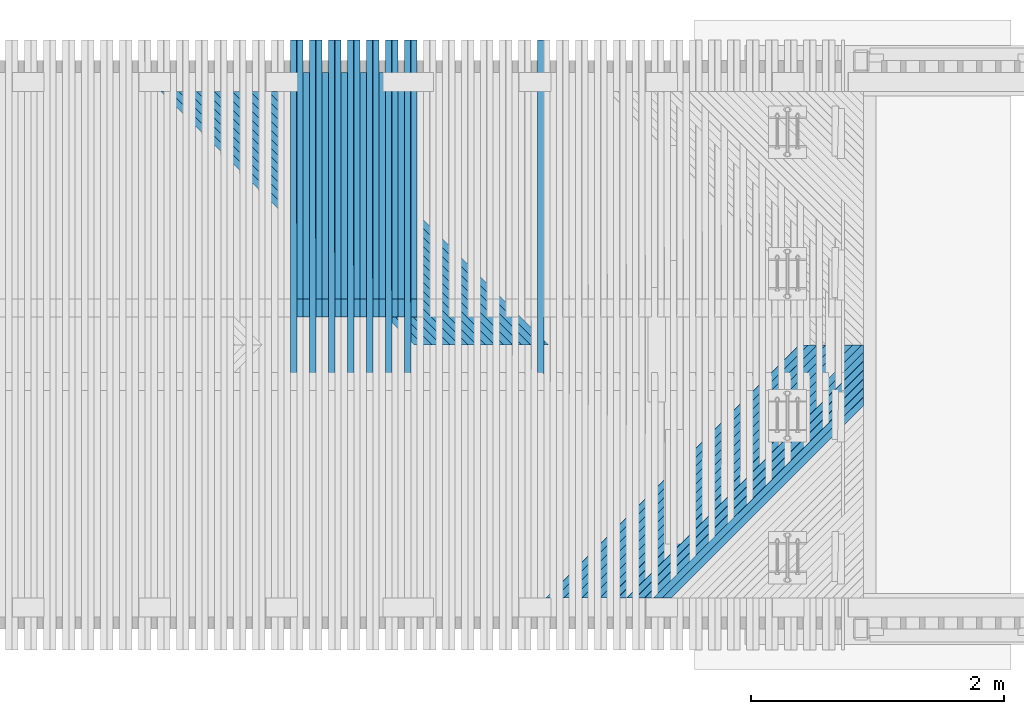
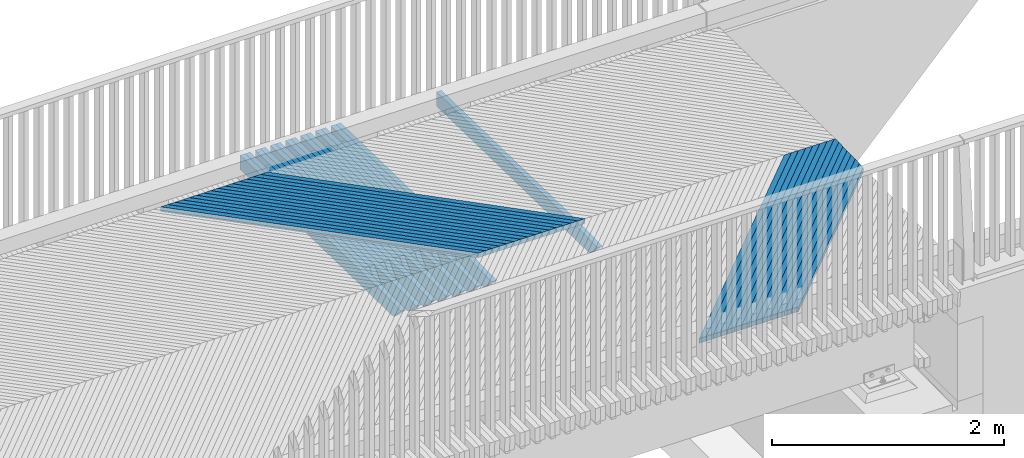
# One storey, part 39 of 47: 50 beams.
"""IFC2X3 building model written with IfcOpenShell, lengths in millimetres."""

from ifc_helpers import new_model, si_unit, frame, origin_with_axes, place, context, subcontext, project, spatial, faceted_brep, material, type_object, element, save


model = new_model("IFC2X3")

# Units and contexts
model_context = context("Model", 3, precision=1e-05, world=origin_with_axes())
body_context = subcontext(model_context, "Body", "Model", "MODEL_VIEW")
ifc_project = project(units=[si_unit("LENGTHUNIT", "METRE", prefix="MILLI"), si_unit("AREAUNIT", "SQUARE_METRE"), si_unit("VOLUMEUNIT", "CUBIC_METRE"), si_unit("MASSUNIT", "GRAM", prefix="KILO"), si_unit("TIMEUNIT", "SECOND"), si_unit("PLANEANGLEUNIT", "RADIAN"), si_unit("SOLIDANGLEUNIT", "STERADIAN"), si_unit("THERMODYNAMICTEMPERATUREUNIT", "DEGREE_CELSIUS"), si_unit("LUMINOUSINTENSITYUNIT", "LUMEN")], contexts=[model_context])

# Site, building, storey
site_placement = place(None, origin_with_axes())
site = spatial("IfcSite", under=ifc_project, at=site_placement, Name="Undefined", CompositionType="ELEMENT")
building_placement = place(site_placement, origin_with_axes())
building = spatial("IfcBuilding", under=site, at=building_placement, Name="Undefined", CompositionType="ELEMENT")
storey_placement = place(building_placement, origin_with_axes())
storey = spatial("IfcBuildingStorey", under=building, at=storey_placement, Name="Undefined", CompositionType="ELEMENT", Elevation=0.0)

# Beams
ifc_material = material(Name="TIMBER/Timber_Undefined")
beam_type_1 = type_object("IfcBeamType", Name="150*50", PredefinedType="NOTDEFINED")
beam_1_placement = place(storey_placement, frame((14050.8993195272, 64771.443807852, 3057.57767055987), z_axis=(0.00996890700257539, 0.0199960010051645, 0.999750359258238), x_axis=(0.000199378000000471, -0.999800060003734, 0.0199950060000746)))
element("IfcBeam", 1, at=beam_1_placement, inside=storey, type_object=beam_type_1, material=ifc_material, Name="BEAM", ObjectType="150*50", context=body_context, shape_type="Brep", body=[
    faceted_brep([(6.18456397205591e-09, -24.9999999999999, -75.0000000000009), (6.18456397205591e-09, 24.9999999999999, -75.0), (2633.00494983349, 25.0000000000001, -75.0000000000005), (2633.00495050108, -24.9999999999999, -75.0000000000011), (-6.1918399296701e-09, -24.9999999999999, 74.9999999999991), (-6.19911588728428e-09, 25.0, 75.0), (2408.42506497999, 24.9999999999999, 75.0), (2768.5924870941, 25.0, 60.5875375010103), (2768.59248707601, -25.0, 60.5875366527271), (2408.4250638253, -25.0, 74.9999999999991)], [[[0, 1, 2, 3]], [[0, 4, 5, 1]], [[2, 1, 5, 6, 7]], [[3, 2, 7, 8]], [[4, 0, 3, 8, 9]], [[5, 4, 9, 6]], [[8, 7, 6, 9]]]),
])
beam_2_placement = place(storey_placement, frame((13050.7800197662, 64771.4438078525, 3066.79908474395), z_axis=(0.00839151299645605, 0.0199960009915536, 0.999764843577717), x_axis=(0.000167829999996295, -0.999800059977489, 0.0199952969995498)))
element("IfcBeam", 2, at=beam_2_placement, inside=storey, type_object=beam_type_1, material=ifc_material, Name="BEAM", ObjectType="150*50", context=body_context, shape_type="Brep", body=[
    faceted_brep([(6.18456397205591e-09, -24.9999999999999, -75.0000000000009), (-6.1918399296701e-09, -24.9999999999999, 74.9999999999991), (-6.19911588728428e-09, 25.0, 75.0), (6.18456397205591e-09, 24.9999999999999, -75.0), (2047.96935975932, 25.0, 75.0), (2186.42645864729, 25.0, -75.0), (2186.42645915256, -25.0000000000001, -75.0), (2047.96936034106, -25.0000000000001, 75.0)], [[[0, 1, 2, 3]], [[3, 2, 4, 5]], [[0, 3, 5, 6]], [[1, 0, 6, 7]], [[2, 1, 7, 4]], [[7, 6, 5, 4]]]),
])
beam_3_placement = place(storey_placement, frame((13000.7423487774, 64771.443807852, 3067.21819199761), z_axis=(0.00822469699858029, 0.0199960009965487, 0.999766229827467), x_axis=(0.000164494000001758, -0.999800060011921, 0.0199953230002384)))
element("IfcBeam", 3, at=beam_3_placement, inside=storey, type_object=beam_type_1, material=ifc_material, Name="BEAM", ObjectType="150*50", context=body_context, shape_type="Brep", body=[
    faceted_brep([(6.18456397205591e-09, -24.9999999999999, -75.0000000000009), (6.18456397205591e-09, 24.9999999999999, -75.0), (2633.00494983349, 25.0000000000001, -75.0000000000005), (2633.00495050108, -24.9999999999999, -75.0000000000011), (-6.1918399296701e-09, -24.9999999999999, 74.9999999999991), (-6.19911588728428e-09, 25.0, 75.0), (2408.42506497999, 24.9999999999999, 75.0), (2768.5924870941, 25.0, 60.5875375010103), (2768.59248707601, -25.0, 60.5875366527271), (2408.4250638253, -25.0, 74.9999999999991)], [[[0, 1, 2, 3]], [[0, 4, 5, 1]], [[2, 1, 5, 6, 7]], [[3, 2, 7, 8]], [[4, 0, 3, 8, 9]], [[5, 4, 9, 6]], [[8, 7, 6, 9]]]),
])
beam_4_placement = place(storey_placement, frame((12950.7016783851, 64513.4953923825, 3072.78964680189), z_axis=(0.00822469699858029, 0.0199960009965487, 0.999766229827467), x_axis=(0.000164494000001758, -0.999800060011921, 0.0199953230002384)))
element("IfcBeam", 4, at=beam_4_placement, inside=storey, type_object=beam_type_1, material=ifc_material, Name="BEAM", ObjectType="150*50", context=body_context, shape_type="Brep", body=[
    faceted_brep([(6.18456397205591e-09, -24.9999999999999, -75.0000000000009), (-6.1918399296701e-09, -24.9999999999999, 74.9999999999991), (-6.19911588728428e-09, 25.0, 75.0), (6.18456397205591e-09, 24.9999999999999, -75.0), (1789.96936586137, 25.0, 75.0000000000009), (1928.42646506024, 25.0, -75.0), (1928.4264649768, -24.9999999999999, -75.0), (1789.96936577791, -24.9999999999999, 75.0)], [[[0, 1, 2, 3]], [[3, 2, 4, 5]], [[0, 3, 5, 6]], [[1, 0, 6, 7]], [[2, 1, 7, 4]], [[7, 6, 5, 4]]]),
])
beam_5_placement = place(storey_placement, frame((12900.7563811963, 64771.4438078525, 3068.03921047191), z_axis=(0.00814233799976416, 0.0199960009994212, 0.999766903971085), x_axis=(0.000162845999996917, -0.999800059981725, 0.0199953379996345)))
element("IfcBeam", 5, at=beam_5_placement, inside=storey, type_object=beam_type_1, material=ifc_material, Name="BEAM", ObjectType="150*50", context=body_context, shape_type="Brep", body=[
    faceted_brep([(6.18456397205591e-09, -24.9999999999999, -75.0000000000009), (-6.1918399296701e-09, -24.9999999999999, 74.9999999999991), (-6.19911588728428e-09, 25.0, 75.0), (6.18456397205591e-09, 24.9999999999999, -75.0), (2047.96935975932, 25.0, 75.0), (2186.42645864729, 25.0, -75.0), (2186.42645915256, -25.0000000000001, -75.0), (2047.96936034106, -25.0000000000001, 75.0)], [[[0, 1, 2, 3]], [[3, 2, 4, 5]], [[0, 3, 5, 6]], [[1, 0, 6, 7]], [[2, 1, 7, 4]], [[7, 6, 5, 4]]]),
])
beam_6_placement = place(storey_placement, frame((12850.7186073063, 64771.443807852, 3068.44584667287), z_axis=(0.00797552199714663, 0.019996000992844, 0.999768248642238), x_axis=(0.000159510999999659, -0.999800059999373, 0.0199953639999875)))
element("IfcBeam", 6, at=beam_6_placement, inside=storey, type_object=beam_type_1, material=ifc_material, Name="BEAM", ObjectType="150*50", context=body_context, shape_type="Brep", body=[
    faceted_brep([(6.18456397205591e-09, -24.9999999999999, -75.0000000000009), (6.18456397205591e-09, 24.9999999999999, -75.0), (2633.00494983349, 25.0000000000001, -75.0000000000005), (2633.00495050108, -24.9999999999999, -75.0000000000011), (-6.1918399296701e-09, -24.9999999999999, 74.9999999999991), (-6.19911588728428e-09, 25.0, 75.0), (2408.42501428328, 25.0000000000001, 74.9999999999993), (2768.5924870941, 25.0, 60.5875375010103), (2768.59248707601, -25.0, 60.5875366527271), (2408.4250638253, -25.0, 74.9999999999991)], [[[0, 1, 2, 3]], [[0, 4, 5, 1]], [[2, 1, 5, 6, 7]], [[3, 2, 7, 8]], [[4, 0, 3, 8, 9]], [[5, 4, 9, 6]], [[8, 7, 6, 9]]]),
])
beam_7_placement = place(storey_placement, frame((12800.6765498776, 64513.4953923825, 3074.00482951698), z_axis=(0.00797552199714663, 0.019996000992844, 0.999768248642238), x_axis=(0.000159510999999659, -0.999800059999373, 0.0199953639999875)))
element("IfcBeam", 7, at=beam_7_placement, inside=storey, type_object=beam_type_1, material=ifc_material, Name="BEAM", ObjectType="150*50", context=body_context, shape_type="Brep", body=[
    faceted_brep([(6.18456397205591e-09, -24.9999999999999, -75.0000000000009), (-6.1918399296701e-09, -24.9999999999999, 74.9999999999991), (-6.19911588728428e-09, 25.0, 75.0), (6.18456397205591e-09, 24.9999999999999, -75.0), (1789.96936586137, 25.0, 75.0000000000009), (1928.42646506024, 25.0, -75.0), (1928.4264649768, -24.9999999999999, -75.0), (1789.96936577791, -24.9999999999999, 75.0)], [[[0, 1, 2, 3]], [[3, 2, 4, 5]], [[0, 3, 5, 6]], [[1, 0, 6, 7]], [[2, 1, 7, 4]], [[7, 6, 5, 4]]]),
])
beam_8_placement = place(storey_placement, frame((12750.7324382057, 64771.4438078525, 3069.24194531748), z_axis=(0.00789316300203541, 0.0199960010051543, 0.999768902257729), x_axis=(0.000157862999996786, -0.999800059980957, 0.0199953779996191)))
element("IfcBeam", 8, at=beam_8_placement, inside=storey, type_object=beam_type_1, material=ifc_material, Name="BEAM", ObjectType="150*50", context=body_context, shape_type="Brep", body=[
    faceted_brep([(6.18456397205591e-09, -24.9999999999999, -75.0000000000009), (-6.1918399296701e-09, -24.9999999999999, 74.9999999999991), (-6.19911588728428e-09, 25.0, 75.0), (6.18456397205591e-09, 24.9999999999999, -75.0), (2047.96935975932, 25.0, 75.0), (2186.42645864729, 25.0, -75.0), (2186.42645915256, -25.0000000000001, -75.0), (2047.96936034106, -25.0000000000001, 75.0)], [[[0, 1, 2, 3]], [[3, 2, 4, 5]], [[0, 3, 5, 6]], [[1, 0, 6, 7]], [[2, 1, 7, 4]], [[7, 6, 5, 4]]]),
])
beam_9_placement = place(storey_placement, frame((12700.6945645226, 64771.443807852, 3069.6361104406), z_axis=(0.00772634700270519, 0.0199960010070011, 0.99977020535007), x_axis=(0.000154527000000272, -0.999800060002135, 0.0199954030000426)))
element("IfcBeam", 9, at=beam_9_placement, inside=storey, type_object=beam_type_1, material=ifc_material, Name="BEAM", ObjectType="150*50", context=body_context, shape_type="Brep", body=[
    faceted_brep([(6.18456397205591e-09, -24.9999999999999, -75.0000000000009), (6.18456397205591e-09, 24.9999999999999, -75.0), (2633.00494983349, 25.0000000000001, -75.0000000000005), (2633.00495050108, -24.9999999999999, -75.0000000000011), (-6.1918399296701e-09, -24.9999999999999, 74.9999999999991), (-6.19911588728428e-09, 25.0, 75.0), (2408.42501428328, 25.0000000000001, 74.9999999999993), (2768.5924870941, 25.0, 60.5875375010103), (2768.59248707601, -25.0, 60.5875366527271), (2408.4250638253, -25.0, 74.9999999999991)], [[[0, 1, 2, 3]], [[0, 4, 5, 1]], [[2, 1, 5, 6, 7]], [[3, 2, 7, 8]], [[4, 0, 3, 8, 9]], [[5, 4, 9, 6]], [[8, 7, 6, 9]]]),
])
beam_10_placement = place(storey_placement, frame((12650.6511231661, 64513.4953923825, 3075.18262097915), z_axis=(0.00772634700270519, 0.0199960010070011, 0.99977020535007), x_axis=(0.000154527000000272, -0.999800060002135, 0.0199954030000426)))
element("IfcBeam", 10, at=beam_10_placement, inside=storey, type_object=beam_type_1, material=ifc_material, Name="BEAM", ObjectType="150*50", context=body_context, shape_type="Brep", body=[
    faceted_brep([(6.18456397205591e-09, -24.9999999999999, -75.0000000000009), (-6.1918399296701e-09, -24.9999999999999, 74.9999999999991), (-6.19911588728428e-09, 25.0, 75.0), (6.18456397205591e-09, 24.9999999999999, -75.0), (1789.96936586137, 25.0, 75.0000000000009), (1928.42646506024, 25.0, -75.0), (1928.4264649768, -24.9999999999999, -75.0), (1789.96936577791, -24.9999999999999, 75.0)], [[[0, 1, 2, 3]], [[3, 2, 4, 5]], [[0, 3, 5, 6]], [[1, 0, 6, 7]], [[2, 1, 7, 4]], [[7, 6, 5, 4]]]),
])
beam_11_placement = place(storey_placement, frame((12600.7082001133, 64771.4438078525, 3070.40728920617), z_axis=(0.00764398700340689, 0.019996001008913, 0.999770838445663), x_axis=(0.0001528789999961, -0.999800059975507, 0.0199954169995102)))
element("IfcBeam", 11, at=beam_11_placement, inside=storey, type_object=beam_type_1, material=ifc_material, Name="BEAM", ObjectType="150*50", context=body_context, shape_type="Brep", body=[
    faceted_brep([(6.18456397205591e-09, -24.9999999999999, -75.0000000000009), (-6.1918399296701e-09, -24.9999999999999, 74.9999999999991), (-6.19911588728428e-09, 25.0, 75.0), (6.18456397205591e-09, 24.9999999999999, -75.0), (2047.96935975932, 25.0, 75.0), (2186.42645864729, 25.0, -75.0), (2186.42645915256, -25.0000000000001, -75.0), (2047.96936034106, -25.0000000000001, 75.0)], [[[0, 1, 2, 3]], [[3, 2, 4, 5]], [[0, 3, 5, 6]], [[1, 0, 6, 7]], [[2, 1, 7, 4]], [[7, 6, 5, 4]]]),
])
beam_12_placement = place(storey_placement, frame((12550.6702297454, 64771.443807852, 3070.78898322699), z_axis=(0.00747717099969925, 0.019996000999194, 0.999772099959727), x_axis=(0.000149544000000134, -0.999800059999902, 0.019995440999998)))
element("IfcBeam", 12, at=beam_12_placement, inside=storey, type_object=beam_type_1, material=ifc_material, Name="BEAM", ObjectType="150*50", context=body_context, shape_type="Brep", body=[
    faceted_brep([(6.18456397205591e-09, -24.9999999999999, -75.0000000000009), (6.18456397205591e-09, 24.9999999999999, -75.0), (2633.00494983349, 25.0000000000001, -75.0000000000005), (2633.00495050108, -24.9999999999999, -75.0000000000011), (-6.1918399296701e-09, -24.9999999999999, 74.9999999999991), (-6.19911588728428e-09, 25.0, 75.0), (2408.42501428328, 25.0000000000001, 74.9999999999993), (2768.5924870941, 25.0, 60.5875375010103), (2768.59248707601, -25.0, 60.5875366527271), (2408.4250638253, -25.0, 74.9999999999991)], [[[0, 1, 2, 3]], [[0, 4, 5, 1]], [[2, 1, 5, 6, 7]], [[3, 2, 7, 8]], [[4, 0, 3, 8, 9]], [[5, 4, 9, 6]], [[8, 7, 6, 9]]]),
])
beam_13_placement = place(storey_placement, frame((12500.6254075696, 64513.4953923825, 3076.3230211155), z_axis=(0.00747717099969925, 0.019996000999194, 0.999772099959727), x_axis=(0.000149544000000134, -0.999800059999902, 0.019995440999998)))
element("IfcBeam", 13, at=beam_13_placement, inside=storey, type_object=beam_type_1, material=ifc_material, Name="BEAM", ObjectType="150*50", context=body_context, shape_type="Brep", body=[
    faceted_brep([(6.18456397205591e-09, -24.9999999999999, -75.0000000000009), (-6.1918399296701e-09, -24.9999999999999, 74.9999999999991), (-6.19911588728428e-09, 25.0, 75.0), (6.18456397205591e-09, 24.9999999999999, -75.0), (1789.96936586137, 25.0, 75.0000000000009), (1928.42646506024, 25.0, -75.0), (1928.4264649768, -24.9999999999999, -75.0), (1789.96936577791, -24.9999999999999, 75.0)], [[[0, 1, 2, 3]], [[3, 2, 4, 5]], [[0, 3, 5, 6]], [[1, 0, 6, 7]], [[2, 1, 7, 4]], [[7, 6, 5, 4]]]),
])
beam_14_placement = place(storey_placement, frame((12450.6836762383, 64771.4438078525, 3071.53524206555), z_axis=(0.00739481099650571, 0.0199960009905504, 0.999772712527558), x_axis=(0.000147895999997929, -0.999800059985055, 0.0199954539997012)))
element("IfcBeam", 14, at=beam_14_placement, inside=storey, type_object=beam_type_1, material=ifc_material, Name="BEAM", ObjectType="150*50", context=body_context, shape_type="Brep", body=[
    faceted_brep([(6.18456397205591e-09, -24.9999999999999, -75.0000000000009), (-6.1918399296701e-09, -24.9999999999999, 74.9999999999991), (-6.19911588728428e-09, 25.0, 75.0), (6.18456397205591e-09, 24.9999999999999, -75.0), (2047.96935975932, 25.0, 75.0), (2186.42645864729, 25.0, -75.0), (2186.42645915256, -25.0000000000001, -75.0), (2047.96936034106, -25.0000000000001, 75.0)], [[[0, 1, 2, 3]], [[3, 2, 4, 5]], [[0, 3, 5, 6]], [[1, 0, 6, 7]], [[2, 1, 7, 4]], [[7, 6, 5, 4]]]),
])
beam_15_placement = place(storey_placement, frame((12400.6456122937, 64771.443807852, 3071.90446496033), z_axis=(0.00722799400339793, 0.0199960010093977, 0.999773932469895), x_axis=(0.000144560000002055, -0.99980006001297, 0.0199954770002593)))
element("IfcBeam", 15, at=beam_15_placement, inside=storey, type_object=beam_type_1, material=ifc_material, Name="BEAM", ObjectType="150*50", context=body_context, shape_type="Brep", body=[
    faceted_brep([(6.18456397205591e-09, -24.9999999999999, -75.0000000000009), (6.18456397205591e-09, 24.9999999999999, -75.0), (2633.00494983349, 25.0000000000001, -75.0000000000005), (2633.00495050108, -24.9999999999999, -75.0000000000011), (-6.1918399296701e-09, -24.9999999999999, 74.9999999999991), (-6.19911588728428e-09, 25.0, 75.0), (2408.42506497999, 24.9999999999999, 75.0), (2768.5924870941, 25.0, 60.5875375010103), (2768.59248707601, -25.0, 60.5875366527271), (2408.4250638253, -25.0, 74.9999999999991)], [[[0, 1, 2, 3]], [[0, 4, 5, 1]], [[2, 1, 5, 6, 7]], [[3, 2, 7, 8]], [[4, 0, 3, 8, 9]], [[5, 4, 9, 6]], [[8, 7, 6, 9]]]),
])
beam_16_placement = place(storey_placement, frame((12350.5994124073, 64513.4953923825, 3077.42602985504), z_axis=(0.00722799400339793, 0.0199960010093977, 0.999773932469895), x_axis=(0.000144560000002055, -0.99980006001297, 0.0199954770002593)))
element("IfcBeam", 16, at=beam_16_placement, inside=storey, type_object=beam_type_1, material=ifc_material, Name="BEAM", ObjectType="150*50", context=body_context, shape_type="Brep", body=[
    faceted_brep([(6.18456397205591e-09, -24.9999999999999, -75.0000000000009), (-6.1918399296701e-09, -24.9999999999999, 74.9999999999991), (-6.19911588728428e-09, 25.0, 75.0), (6.18456397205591e-09, 24.9999999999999, -75.0), (1789.96936586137, 25.0, 75.0000000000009), (1928.42646506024, 25.0, -75.0), (1928.4264649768, -24.9999999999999, -75.0), (1789.96936577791, -24.9999999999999, 75.0)], [[[0, 1, 2, 3]], [[3, 2, 4, 5]], [[0, 3, 5, 6]], [[1, 0, 6, 7]], [[2, 1, 7, 4]], [[7, 6, 5, 4]]]),
])
beam_17_placement = place(storey_placement, frame((12300.6588758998, 64771.4438078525, 3072.62580382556), z_axis=(0.00714563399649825, 0.0199960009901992, 0.999774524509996), x_axis=(0.000142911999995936, -0.999800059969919, 0.0199954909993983)))
element("IfcBeam", 17, at=beam_17_placement, inside=storey, type_object=beam_type_1, material=ifc_material, Name="BEAM", ObjectType="150*50", context=body_context, shape_type="Brep", body=[
    faceted_brep([(6.18456397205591e-09, -24.9999999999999, -75.0000000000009), (-6.1918399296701e-09, -24.9999999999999, 74.9999999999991), (-6.19911588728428e-09, 25.0, 75.0), (6.18456397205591e-09, 24.9999999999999, -75.0), (2047.96935975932, 25.0, 75.0), (2186.42645864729, 25.0, -75.0), (2186.42645915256, -25.0000000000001, -75.0), (2047.96936034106, -25.0000000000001, 75.0)], [[[0, 1, 2, 3]], [[3, 2, 4, 5]], [[0, 3, 5, 6]], [[1, 0, 6, 7]], [[2, 1, 7, 4]], [[7, 6, 5, 4]]]),
])
beam_18_placement = place(storey_placement, frame((12250.6207214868, 64771.443807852, 3072.98255557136), z_axis=(0.00697881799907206, 0.0199960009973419, 0.999775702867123), x_axis=(0.000139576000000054, -0.999800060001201, 0.0199955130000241)))
element("IfcBeam", 18, at=beam_18_placement, inside=storey, type_object=beam_type_1, material=ifc_material, Name="BEAM", ObjectType="150*50", context=body_context, shape_type="Brep", body=[
    faceted_brep([(6.18456397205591e-09, -24.9999999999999, -75.0000000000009), (6.18456397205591e-09, 24.9999999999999, -75.0), (2633.00494983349, 25.0000000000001, -75.0000000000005), (2633.00495050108, -24.9999999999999, -75.0000000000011), (-6.1918399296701e-09, -24.9999999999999, 74.9999999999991), (-6.19911588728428e-09, 25.0, 75.0), (2408.42501428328, 25.0000000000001, 74.9999999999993), (2768.5924870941, 25.0, 60.5875375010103), (2768.59248707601, -25.0, 60.5875366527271), (2408.4250638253, -25.0, 74.9999999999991)], [[[0, 1, 2, 3]], [[0, 4, 5, 1]], [[2, 1, 5, 6, 7]], [[3, 2, 7, 8]], [[4, 0, 3, 8, 9]], [[5, 4, 9, 6]], [[8, 7, 6, 9]]]),
])
beam_19_placement = place(storey_placement, frame((12200.5731469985, 64513.4953923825, 3078.49164712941), z_axis=(0.00697881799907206, 0.0199960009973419, 0.999775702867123), x_axis=(0.000139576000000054, -0.999800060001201, 0.0199955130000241)))
element("IfcBeam", 19, at=beam_19_placement, inside=storey, type_object=beam_type_1, material=ifc_material, Name="BEAM", ObjectType="150*50", context=body_context, shape_type="Brep", body=[
    faceted_brep([(6.18456397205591e-09, -24.9999999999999, -75.0000000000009), (-6.1918399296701e-09, -24.9999999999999, 74.9999999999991), (-6.19911588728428e-09, 25.0, 75.0), (6.18456397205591e-09, 24.9999999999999, -75.0), (1789.96936586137, 25.0, 75.0000000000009), (1928.42646506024, 25.0, -75.0), (1928.4264649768, -24.9999999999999, -75.0), (1789.96936577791, -24.9999999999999, 75.0)], [[[0, 1, 2, 3]], [[3, 2, 4, 5]], [[0, 3, 5, 6]], [[1, 0, 6, 7]], [[2, 1, 7, 4]], [[7, 6, 5, 4]]]),
])
beam_20_placement = place(storey_placement, frame((12150.6338084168, 64771.4438078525, 3073.67897441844), z_axis=(0.00689645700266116, 0.0199960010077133, 0.99977627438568), x_axis=(0.000137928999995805, -0.999800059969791, 0.0199955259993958)))
element("IfcBeam", 20, at=beam_20_placement, inside=storey, type_object=beam_type_1, material=ifc_material, Name="BEAM", ObjectType="150*50", context=body_context, shape_type="Brep", body=[
    faceted_brep([(6.18456397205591e-09, -24.9999999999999, -75.0000000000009), (-6.1918399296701e-09, -24.9999999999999, 74.9999999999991), (-6.19911588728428e-09, 25.0, 75.0), (6.18456397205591e-09, 24.9999999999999, -75.0), (2047.96935975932, 25.0, 75.0), (2186.42645864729, 25.0, -75.0), (2186.42645915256, -25.0000000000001, -75.0), (2047.96936034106, -25.0000000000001, 75.0)], [[[0, 1, 2, 3]], [[3, 2, 4, 5]], [[0, 3, 5, 6]], [[1, 0, 6, 7]], [[2, 1, 7, 4]], [[7, 6, 5, 4]]]),
])
beam_21_placement = place(storey_placement, frame((12100.5955666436, 64771.443807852, 3074.02325499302), z_axis=(0.00672964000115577, 0.019996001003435, 0.99977741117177), x_axis=(0.000134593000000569, -0.999800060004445, 0.0199955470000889)))
element("IfcBeam", 21, at=beam_21_placement, inside=storey, type_object=beam_type_1, material=ifc_material, Name="BEAM", ObjectType="150*50", context=body_context, shape_type="Brep", body=[
    faceted_brep([(6.18456397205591e-09, -24.9999999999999, -75.0000000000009), (6.18456397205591e-09, 24.9999999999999, -75.0), (2633.00494983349, 25.0000000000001, -75.0000000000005), (2633.00495050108, -24.9999999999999, -75.0000000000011), (-6.1918399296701e-09, -24.9999999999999, 74.9999999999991), (-6.19911588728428e-09, 25.0, 75.0), (2408.42506497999, 24.9999999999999, 75.0), (2768.5924870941, 25.0, 60.5875375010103), (2768.59248707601, -25.0, 60.5875366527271), (2408.4250638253, -25.0, 74.9999999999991)], [[[0, 1, 2, 3]], [[0, 4, 5, 1]], [[2, 1, 5, 6, 7]], [[3, 2, 7, 8]], [[4, 0, 3, 8, 9]], [[5, 4, 9, 6]], [[8, 7, 6, 9]]]),
])
beam_type_2 = type_object("IfcBeamType", Name="50*50", PredefinedType="NOTDEFINED")
beam_22_placement = place(storey_placement, frame((17046.7195569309, 62364.5001003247, 3168.15461339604), z_axis=(0.706841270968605, -0.706981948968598, -0.0234934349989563), x_axis=(-0.707248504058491, -0.706948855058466, -0.00478224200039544)))
element("IfcBeam", 22, at=beam_22_placement, inside=storey, type_object=beam_type_2, material=ifc_material, Name="BEAM", ObjectType="50*50", context=body_context, shape_type="Brep", body=[
    faceted_brep([(2802.92643296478, -25.0000000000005, 25.0000000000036), (2852.92877373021, -25.0000000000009, -24.9999999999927), (2854.34301907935, 24.9999999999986, -24.9999999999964), (2804.3406783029, 24.9999999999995, 25.0000000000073), (606.177079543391, 24.9999999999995, -25.0000000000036), (656.148289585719, 24.9999999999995, 24.9999999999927), (657.083441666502, -25.0000000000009, 24.9999999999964), (607.112231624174, -25.0000000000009, -25.0)], [[[0, 1, 2, 3]], [[3, 2, 4, 5]], [[0, 3, 5, 6]], [[1, 0, 6, 7]], [[2, 1, 7, 4]], [[6, 5, 4, 7]]]),
])
beam_23_placement = place(storey_placement, frame((16976.0032446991, 62364.5001003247, 3169.21309384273), z_axis=(0.70684402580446, -0.706981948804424, -0.0234104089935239), x_axis=(-0.707247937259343, -0.706948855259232, -0.00486531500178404)))
element("IfcBeam", 23, at=beam_23_placement, inside=storey, type_object=beam_type_2, material=ifc_material, Name="BEAM", ObjectType="50*50", context=body_context, shape_type="Brep", body=[
    faceted_brep([(2802.92643296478, -25.0000000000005, 25.0000000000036), (2852.92877373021, -25.0000000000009, -24.9999999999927), (2854.34301907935, 24.9999999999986, -24.9999999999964), (2804.3406783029, 24.9999999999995, 25.0000000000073), (506.193611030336, 24.9999999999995, -24.9999999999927), (556.165055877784, 24.9999999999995, 25.0000000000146), (557.091907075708, -24.9999999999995, 25.0000000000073), (507.120462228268, -25.0000000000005, -24.9999999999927)], [[[0, 1, 2, 3]], [[3, 2, 4, 5]], [[0, 3, 5, 6]], [[1, 0, 6, 7]], [[2, 1, 7, 4]], [[6, 5, 4, 7]]]),
])
beam_24_placement = place(storey_placement, frame((16905.2868086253, 62364.5001003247, 3170.26326789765), z_axis=(0.706846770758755, -0.70698194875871, -0.0233273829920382), x_axis=(-0.707247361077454, -0.706948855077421, -0.00494838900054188)))
element("IfcBeam", 24, at=beam_24_placement, inside=storey, type_object=beam_type_2, material=ifc_material, Name="BEAM", ObjectType="50*50", context=body_context, shape_type="Brep", body=[
    faceted_brep([(2802.92643296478, -25.0000000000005, 25.0000000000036), (2852.92877373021, -25.0000000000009, -24.9999999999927), (2854.34301907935, 24.9999999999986, -24.9999999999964), (2804.3406783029, 24.9999999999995, 25.0000000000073), (406.209812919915, 24.9999999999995, -25.0000000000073), (456.181492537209, 24.9999999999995, 25.0), (457.100042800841, -25.0000000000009, 25.0), (407.128363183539, -25.0000000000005, -25.0000000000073)], [[[0, 1, 2, 3]], [[3, 2, 4, 5]], [[0, 3, 5, 6]], [[1, 0, 6, 7]], [[2, 1, 7, 4]], [[6, 5, 4, 7]]]),
])
beam_25_placement = place(storey_placement, frame((16834.5702496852, 62364.5001003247, 3171.30513554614), z_axis=(0.706849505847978, -0.706981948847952, -0.023244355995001), x_axis=(-0.707246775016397, -0.70694885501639, -0.0050314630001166)))
element("IfcBeam", 25, at=beam_25_placement, inside=storey, type_object=beam_type_2, material=ifc_material, Name="BEAM", ObjectType="50*50", context=body_context, shape_type="Brep", body=[
    faceted_brep([(2802.92643296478, -25.0000000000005, 25.0000000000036), (2852.92877373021, -25.0000000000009, -24.9999999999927), (2854.34301907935, 24.9999999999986, -24.9999999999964), (2804.3406783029, 24.9999999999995, 25.0000000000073), (306.22568282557, 25.0000000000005, -25.0), (356.197597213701, 25.0000000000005, 25.0), (357.107846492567, -25.0, 24.9999999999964), (307.135932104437, -24.9999999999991, -25.0000000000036)], [[[0, 1, 2, 3]], [[3, 2, 4, 5]], [[0, 3, 5, 6]], [[1, 0, 6, 7]], [[2, 1, 7, 4]], [[6, 5, 4, 7]]]),
])
beam_26_placement = place(storey_placement, frame((16763.8535688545, 62364.5001003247, 3172.33869677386), z_axis=(0.706852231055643, -0.706981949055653, -0.0231613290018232), x_axis=(-0.707246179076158, -0.706948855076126, -0.0051145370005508)))
element("IfcBeam", 26, at=beam_26_placement, inside=storey, type_object=beam_type_2, material=ifc_material, Name="BEAM", ObjectType="50*50", context=body_context, shape_type="Brep", body=[
    faceted_brep([(2802.92643296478, -25.0000000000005, 25.0000000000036), (2852.92877373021, -25.0000000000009, -24.9999999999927), (2854.34301907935, 24.9999999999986, -24.9999999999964), (2804.3406783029, 24.9999999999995, 25.0000000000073), (206.241217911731, 25.0000000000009, -25.0000000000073), (256.213367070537, 25.0000000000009, 24.9999999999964), (257.115315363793, -25.0, 24.9999999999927), (207.143166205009, -25.0, -24.9999999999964)], [[[0, 1, 2, 3]], [[3, 2, 4, 5]], [[0, 3, 5, 6]], [[1, 0, 6, 7]], [[2, 1, 7, 4]], [[6, 5, 4, 7]]]),
])
beam_27_placement = place(storey_placement, frame((16693.1367671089, 62364.5001003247, 3173.36395156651), z_axis=(0.706854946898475, -0.706981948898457, -0.0230783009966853), x_axis=(-0.707245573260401, -0.70694885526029, -0.00519761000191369)))
element("IfcBeam", 27, at=beam_27_placement, inside=storey, type_object=beam_type_2, material=ifc_material, Name="BEAM", ObjectType="50*50", context=body_context, shape_type="Brep", body=[
    faceted_brep([(2802.92643296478, -25.0000000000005, 25.0000000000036), (2852.92877373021, -25.0000000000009, -24.9999999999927), (2854.34301907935, 24.9999999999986, -24.9999999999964), (2804.3406783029, 24.9999999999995, 25.0000000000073), (106.256415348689, 25.0, -24.9999999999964), (156.22879931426, 24.9999999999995, 24.9999999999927), (157.122446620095, -25.0000000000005, 24.9999999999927), (107.150062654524, -25.0000000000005, -24.9999999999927)], [[[0, 1, 2, 3]], [[3, 2, 4, 5]], [[0, 3, 5, 6]], [[1, 0, 6, 7]], [[2, 1, 7, 4]], [[6, 5, 4, 7]]]),
])
beam_28_placement = place(storey_placement, frame((16622.419845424, 62364.5001003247, 3174.38089991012), z_axis=(0.70685765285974, -0.706981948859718, -0.0229952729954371), x_axis=(-0.707244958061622, -0.706948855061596, -0.00528068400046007)))
element("IfcBeam", 28, at=beam_28_placement, inside=storey, type_object=beam_type_2, material=ifc_material, Name="BEAM", ObjectType="50*50", context=body_context, shape_type="Brep", body=[
    faceted_brep([(2802.92643296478, -25.0000000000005, 25.0000000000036), (2852.92877373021, -25.0000000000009, -24.9999999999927), (2854.34301907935, 24.9999999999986, -24.9999999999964), (2804.3406783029, 24.9999999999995, 25.0000000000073), (23.4806436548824, -25.0000000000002, -25.0), (24.8942457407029, 24.9999999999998, -24.9999999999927), (15.3243279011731, -25.0000000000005, -16.8278154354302), (15.5892580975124, 25.0000000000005, -15.6769087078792), (56.2438911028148, 25.0, 25.0000000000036), (57.1292373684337, -25.0, 25.0000000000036)], [[[0, 1, 2, 3]], [[4, 5, 2, 1]], [[5, 4, 6, 7]], [[3, 2, 5, 7, 8]], [[0, 3, 8, 9]], [[4, 1, 0, 9, 6]], [[8, 7, 6, 9]]]),
])
for number, where, z_axis, x_axis, name in (
    (29, (16551.7028047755, 62364.5001003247, 3175.38954179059), (0.706860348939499, -0.70698194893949, -0.0229122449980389), (-0.707244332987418, -0.706948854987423, -0.00536375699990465), "BEAM"),
    (30, (16480.9856461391, 62364.5001003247, 3176.38987719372), (0.706863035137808, -0.706981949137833, -0.0228292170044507), (-0.707243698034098, -0.706948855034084, -0.00544683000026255), "BEAM"),
    (31, (16410.2683704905, 62364.5001003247, 3177.38190610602), (0.706865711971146, -0.706981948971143, -0.0227461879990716), (-0.707243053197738, -0.706948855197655, -0.00552990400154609), "BEAM"),
    (32, (16339.5509788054, 62364.5001003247, 3178.36562851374), (0.706868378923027, -0.706981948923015, -0.0226631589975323), (-0.707242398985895, -0.7069488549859, -0.00561297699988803), "BEAM"),
    (33, (16268.8334720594, 62364.5001003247, 3179.34104440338), (0.706871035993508, -0.706981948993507, -0.0225801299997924), (-0.707241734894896, -0.706948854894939, -0.00569604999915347), "BEAM"),
    (34, (16198.1158512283, 62364.5001003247, 3180.30815376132), (0.706873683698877, -0.706981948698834, -0.0224970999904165), (-0.707241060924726, -0.706948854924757, -0.00577912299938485), "BEAM"),
    (35, (16127.3981172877, 62364.5001003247, 3181.26695657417), (0.706876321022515, -0.706981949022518, -0.0224140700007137), (-0.707240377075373, -0.706948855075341, -0.00586219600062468), "BEAM"),
):
    element("IfcBeam", number, at=place(storey_placement, frame(where, z_axis=z_axis, x_axis=x_axis)), inside=storey, type_object=beam_type_2, material=ifc_material, Name=name, ObjectType="50*50", context=body_context, shape_type="Brep", body=[
        faceted_brep([(24.8942457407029, 24.9999999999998, -24.9999999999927), (-25.0086637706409, 24.9999999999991, 25.0), (2804.3406783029, 24.9999999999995, 25.0000000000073), (2854.34301907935, 24.9999999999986, -24.9999999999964), (-26.4222658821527, -25.0000000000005, 25.0000000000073), (2802.92643296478, -25.0000000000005, 25.0000000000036), (23.4806436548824, -25.0000000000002, -25.0), (2852.92877373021, -25.0000000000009, -24.9999999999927)], [[[0, 1, 2, 3]], [[1, 4, 5, 2]], [[4, 6, 7, 5]], [[6, 0, 3, 7]], [[5, 7, 3, 2]], [[6, 4, 1, 0]]]),
    ])
for number, where, z_axis, x_axis, name in (
    (36, (14076.5390161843, 62365.4998996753, 3205.45883522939), (0.706948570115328, 0.706981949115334, -0.0200060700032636), (-0.707216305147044, 0.706948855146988, -0.00827127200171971), "BEAM"),
    (37, (14005.8183426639, 62365.4998996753, 3206.16843605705), (0.706950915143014, 0.706981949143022, -0.0199230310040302), (-0.707215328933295, 0.70694885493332, -0.00835434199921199), "BEAM"),
    (38, (13935.0975862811, 62365.4998996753, 3206.86972998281), (0.706953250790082, 0.706981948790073, -0.019839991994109), (-0.707214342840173, 0.706948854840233, -0.00843741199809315), "BEAM"),
    (39, (13864.3767480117, 62365.4998996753, 3207.56271699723), (0.706955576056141, 0.706981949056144, -0.019756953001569), (-0.707213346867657, 0.706948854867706, -0.00852048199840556), "BEAM"),
    (40, (13793.6558288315, 62365.4998996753, 3208.24739709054), (0.706957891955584, 0.706981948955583, -0.019673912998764), (-0.707212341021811, 0.706948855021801, -0.00860355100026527), "BEAM"),
    (41, (13722.9348297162, 62365.4998996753, 3208.92377025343), (0.706960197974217, 0.706981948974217, -0.0195908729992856), (-0.7072113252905, 0.706948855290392, -0.00868662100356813), "BEAM"),
    (42, (13652.2137516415, 62365.4998996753, 3209.5918364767), (0.70696249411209, 0.706981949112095, -0.0195078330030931), (-0.707210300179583, 0.706948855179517, -0.00876969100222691), "BEAM"),
    (43, (13581.4925955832, 62365.4998996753, 3210.25159575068), (0.706964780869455, 0.706981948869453, -0.0194247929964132), (-0.707209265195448, 0.706948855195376, -0.00885276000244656), "BEAM"),
    (44, (13510.771362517, 62365.4998996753, 3210.90304806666), (0.706967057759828, 0.706981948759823, -0.019341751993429), (-0.70720822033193, 0.706948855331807, -0.00893582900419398), "BEAM"),
    (45, (13440.0500534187, 62365.4998996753, 3211.54619341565), (0.706969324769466, 0.706981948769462, -0.0192587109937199), (-0.707207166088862, 0.706948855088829, -0.00901889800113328), "BEAM"),
    (46, (13369.3286692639, 62365.4998996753, 3212.18103178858), (0.706971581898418, 0.706981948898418, -0.0191756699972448), (-0.707206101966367, 0.706948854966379, -0.0091019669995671), "BEAM"),
    (47, (13298.6072110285, 62365.4998996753, 3212.80756317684), (0.706973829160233, 0.706981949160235, -0.0190926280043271), (-0.707205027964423, 0.706948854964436, -0.00918503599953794), "BEAM"),
    (48, (13227.8856796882, 62365.4998996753, 3213.42578757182), (0.706976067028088, 0.70698194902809, -0.0190095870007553), (-0.707203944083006, 0.706948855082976, -0.00926810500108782), "BEAM"),
    (49, (13157.1640762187, 62365.4998996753, 3214.03570496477), (0.70697829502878, 0.70698194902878, -0.0189265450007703), (-0.707202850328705, 0.706948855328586, -0.00935117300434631), "BEAM"),
    (50, (13086.4424015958, 62365.4998996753, 3214.63731534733), (0.706980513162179, 0.70698194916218, -0.0188435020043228), (-0.707201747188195, 0.706948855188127, -0.00943424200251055), "BEAM"),
):
    element("IfcBeam", number, at=place(storey_placement, frame(where, z_axis=z_axis, x_axis=x_axis)), inside=storey, type_object=beam_type_2, material=ifc_material, Name=name, ObjectType="50*50", context=body_context, shape_type="Brep", body=[
        faceted_brep([(23.5869248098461, 25.0, -25.0), (-26.4154158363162, 25.0, 25.0), (2802.92643296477, 25.0000000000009, 25.0), (2852.92877373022, 25.0000000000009, -25.0), (-25.0011704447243, -25.0, 24.9999999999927), (2804.34067830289, -24.9999999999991, 25.0), (25.0011701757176, -25.0, -24.9999999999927), (2854.34301907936, -24.9999999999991, -25.0)], [[[0, 1, 2, 3]], [[1, 4, 5, 2]], [[4, 6, 7, 5]], [[6, 0, 3, 7]], [[5, 7, 3, 2]], [[6, 4, 1, 0]]]),
    ])

save(model, "model.ifc")
